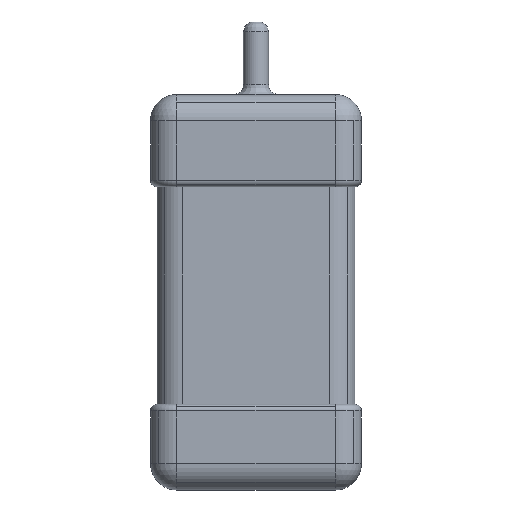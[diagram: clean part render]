
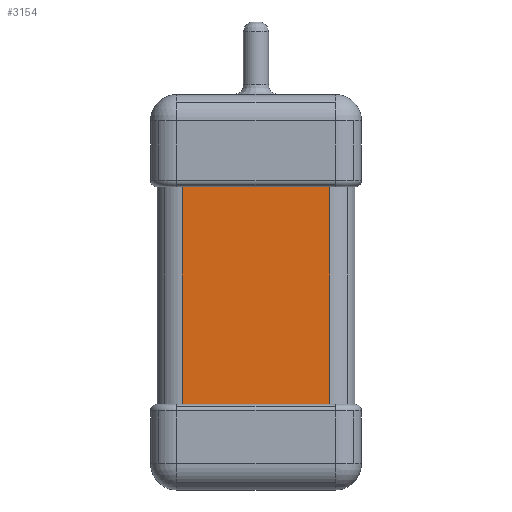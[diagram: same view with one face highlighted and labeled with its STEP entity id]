
A CAD part, front view. The second image highlights one B-rep face of the part: STEP entity #3154.
In plain terms, the highlighted planar face has unit normal (0, -1, 0).
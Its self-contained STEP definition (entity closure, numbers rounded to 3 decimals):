
#151=CARTESIAN_POINT('',(0.287,-0.047,-4.22));
#152=VERTEX_POINT('',#151);
#160=CARTESIAN_POINT('',(0.287,-0.047,-0.92));
#161=VERTEX_POINT('',#160);
#162=CARTESIAN_POINT('',(0.287,-0.047,-4.22));
#163=DIRECTION('',(0.0,0.,1.0));
#164=VECTOR('',#163,3.3);
#165=LINE('',#162,#164);
#166=EDGE_CURVE('',#152,#161,#165,.T.);
#1068=CARTESIAN_POINT('',(2.525,-0.047,-4.22));
#1069=VERTEX_POINT('',#1068);
#1076=CARTESIAN_POINT('',(2.525,-0.047,-4.22));
#1077=DIRECTION('',(-1.0,0.0,0.0));
#1078=VECTOR('',#1077,2.238);
#1079=LINE('',#1076,#1078);
#1080=EDGE_CURVE('',#1069,#152,#1079,.T.);
#1909=CARTESIAN_POINT('',(2.525,-0.047,-0.92));
#1910=VERTEX_POINT('',#1909);
#1911=CARTESIAN_POINT('',(2.525,-0.047,-0.92));
#1912=DIRECTION('',(-1.0,0.0,0.0));
#1913=VECTOR('',#1912,2.238);
#1914=LINE('',#1911,#1913);
#1915=EDGE_CURVE('',#1910,#161,#1914,.T.);
#3040=CARTESIAN_POINT('',(2.525,-0.047,-0.92));
#3041=DIRECTION('',(0.0,0.,-1.0));
#3042=VECTOR('',#3041,3.3);
#3043=LINE('',#3040,#3042);
#3044=EDGE_CURVE('',#1910,#1069,#3043,.T.);
#3143=CARTESIAN_POINT('',(2.906,-0.047,-4.22));
#3144=DIRECTION('',(0.0,-1.0,0.0));
#3145=DIRECTION('',(0.0,0.0,-1.0));
#3146=AXIS2_PLACEMENT_3D('',#3143,#3144,#3145);
#3147=PLANE('',#3146);
#3148=ORIENTED_EDGE('',*,*,#3044,.F.);
#3149=ORIENTED_EDGE('',*,*,#1915,.T.);
#3150=ORIENTED_EDGE('',*,*,#166,.F.);
#3151=ORIENTED_EDGE('',*,*,#1080,.F.);
#3152=EDGE_LOOP('',(#3148,#3149,#3150,#3151));
#3153=FACE_OUTER_BOUND('',#3152,.T.);
#3154=ADVANCED_FACE('',(#3153),#3147,.T.);
